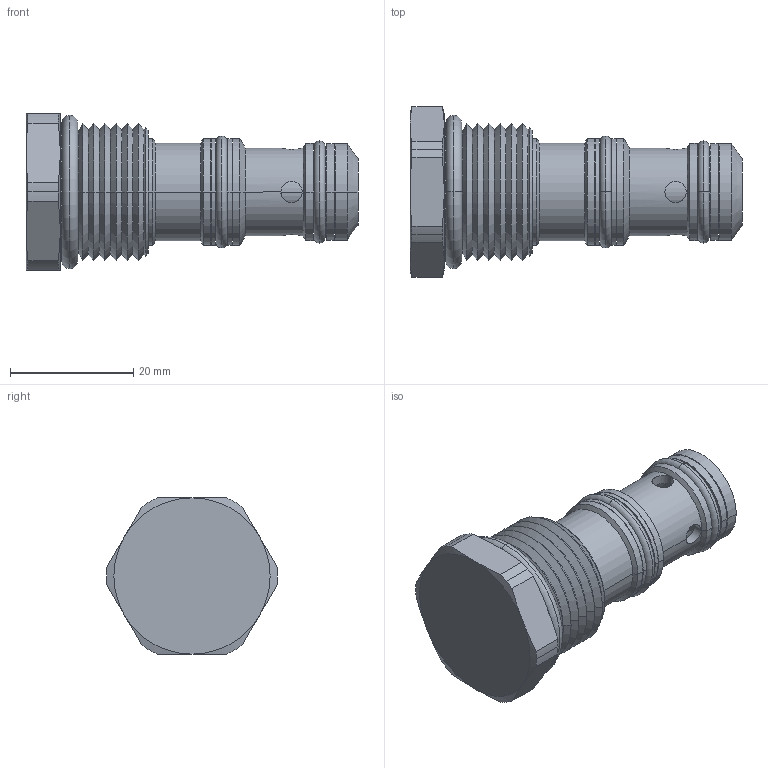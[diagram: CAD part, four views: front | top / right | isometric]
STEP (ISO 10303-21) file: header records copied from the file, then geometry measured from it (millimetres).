
FILE_DESCRIPTION((''),'2;1');
FILE_NAME('U:\Solid model CD\Solid model full\Mechanical\STEP\DFCPD00-3D Full.stp','2008-07-29T09:05:19',('Dan'),(''),'Autodesk Inventor 9','Autodesk Inventor 9','');
FILE_SCHEMA(('AUTOMOTIVE_DESIGN { 1 0 10303 214 1 1 1 1 }'));
Length unit declared in the file: inch
Products named in the file (8): DFCPD00-3D Full; DFCPD00-3D Full1; DFCPD00-3D Full2; DFCPD00-3D Full3; DFCPD00-3D Full4; DFCPD00-3D Full5; DFCPD00-3D Full6; DFCPD00-3D Full7
Assembly tree (7 placements, depth 2):
  DFCPD00-3D Full
    DFCPD00-3D Full1
    DFCPD00-3D Full2
    DFCPD00-3D Full3
    DFCPD00-3D Full4
    DFCPD00-3D Full5
    DFCPD00-3D Full6
    DFCPD00-3D Full7
Bounding box: 53.95 x 27.76 x 25.4 mm (x, y, z)
Volume: 14314.9 mm3; surface area: 7117.1 mm2
Topology: 7 solids, 7 shells, 159 faces, 366 edges, 217 vertices
Faces by surface type: cylinder 62, cone 54, plane 23, torus 12, bspline 4, sphere 4
Entity records: 5197 total; most frequent: CARTESIAN_POINT 1337, DIRECTION 850, ORIENTED_EDGE 732, AXIS2_PLACEMENT_3D 368, EDGE_CURVE 366, VERTEX_POINT 217, CIRCLE 198, EDGE_LOOP 179
